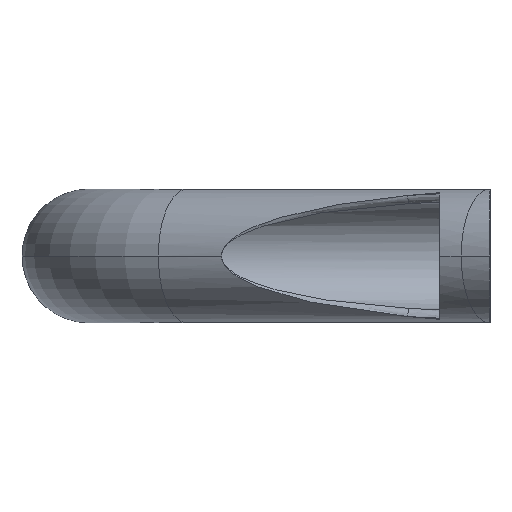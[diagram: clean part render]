
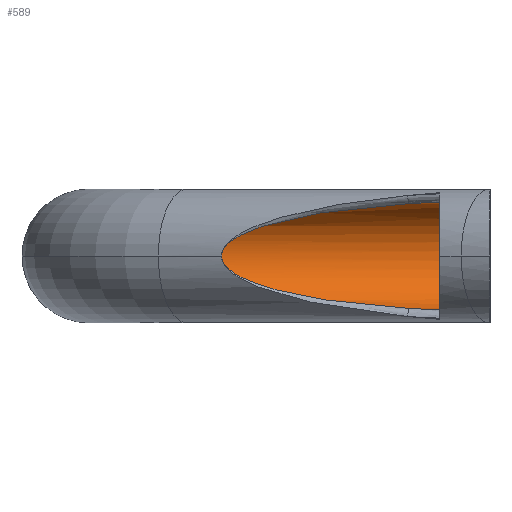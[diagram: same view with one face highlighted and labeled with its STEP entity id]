
A CAD part, left-side view. The second image highlights one B-rep face of the part: STEP entity #589.
In plain terms, the highlighted cylindrical face has radius 6.5 mm (diameter 13 mm), a partial arc.
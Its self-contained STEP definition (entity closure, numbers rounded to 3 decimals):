
#9 = DIRECTION ( 'NONE',  ( 0., 0., -1. ) ) ;
#28 = CARTESIAN_POINT ( 'NONE',  ( -68.501, 32.119, -0.128 ) ) ;
#83 = CARTESIAN_POINT ( 'NONE',  ( -70.348, 23.595, -4.551 ) ) ;
#130 = CARTESIAN_POINT ( 'NONE',  ( -69.307, 28.434, 3.144 ) ) ;
#132 = CARTESIAN_POINT ( 'NONE',  ( -73.328, 9.612, -6.281 ) ) ;
#134 = CARTESIAN_POINT ( 'NONE',  ( -75., 73., 0. ) ) ;
#143 = DIRECTION ( 'NONE',  ( 0., 0., -1. ) ) ;
#148 = EDGE_CURVE ( 'NONE', #1024, #373, #291, .T. ) ;
#186 = CARTESIAN_POINT ( 'NONE',  ( -68.568, 31.796, -0.962 ) ) ;
#207 = CARTESIAN_POINT ( 'NONE',  ( -68.518, 32.026, -0.503 ) ) ;
#255 = CARTESIAN_POINT ( 'NONE',  ( -68.724, 31.091, 1.697 ) ) ;
#268 = CARTESIAN_POINT ( 'NONE',  ( -74.107, 6., 6.438 ) ) ;
#291 = B_SPLINE_CURVE_WITH_KNOTS ( 'NONE', 3,
 ( #1592, #829, #28, #702, #1060, #207, #486, #186, #847, #1518, #723, #1219, #732, #458, #1244, #1633, #1380, #709, #743, #83, #1235, #603, #834, #865, #1345, #583 ),
 .UNSPECIFIED., .F., .F.,
 ( 4, 2, 2, 2, 2, 2, 2, 2, 2, 2, 2, 2, 4 ),
 ( 0., 0., 0., 0.001, 0.001, 0.002, 0.003, 0.005, 0.006, 0.009, 0.012, 0.018, 0.025 ),
 .UNSPECIFIED. ) ;
#331 = CARTESIAN_POINT ( 'NONE',  ( -74.107, 6., 6.438 ) ) ;
#332 =( BOUNDED_CURVE ( )  B_SPLINE_CURVE ( 3, ( #268, #507, #391, #1022 ),
 .UNSPECIFIED., .F., .T. ) 
 B_SPLINE_CURVE_WITH_KNOTS ( ( 4, 4 ),
 ( 1.709, 1.831 ),
 .UNSPECIFIED. ) 
 CURVE ( )  GEOMETRIC_REPRESENTATION_ITEM ( )  RATIONAL_B_SPLINE_CURVE ( ( 1., 0.999, 0.999, 1. ) ) 
 REPRESENTATION_ITEM ( '' )  );
#351 = VERTEX_POINT ( 'NONE', #1267 ) ;
#373 = VERTEX_POINT ( 'NONE', #132 ) ;
#374 = CARTESIAN_POINT ( 'NONE',  ( -69.104, 29.362, 2.746 ) ) ;
#385 = CARTESIAN_POINT ( 'NONE',  ( -70.348, 23.595, 4.551 ) ) ;
#391 = CARTESIAN_POINT ( 'NONE',  ( -73.584, 8.424, 6.35 ) ) ;
#394 = CARTESIAN_POINT ( 'NONE',  ( -69.929, 25.555, 4.078 ) ) ;
#458 = CARTESIAN_POINT ( 'NONE',  ( -69.004, 29.818, -2.525 ) ) ;
#472 = ORIENTED_EDGE ( 'NONE', *, *, #576, .T. ) ;
#486 = CARTESIAN_POINT ( 'NONE',  ( -68.529, 31.976, -0.622 ) ) ;
#494 = CARTESIAN_POINT ( 'NONE',  ( -68.501, 32.119, 0.128 ) ) ;
#507 = CARTESIAN_POINT ( 'NONE',  ( -73.844, 7.218, 6.402 ) ) ;
#511 = CARTESIAN_POINT ( 'NONE',  ( -68.568, 31.796, 0.962 ) ) ;
#534 = CYLINDRICAL_SURFACE ( 'NONE', #1245, 6.5 ) ;
#542 = EDGE_CURVE ( 'NONE', #1003, #1214, #332, .T. ) ;
#545 = CIRCLE ( 'NONE', #687, 6.5 ) ;
#576 = EDGE_CURVE ( 'NONE', #351, #1003, #545, .T. ) ;
#583 = CARTESIAN_POINT ( 'NONE',  ( -73.328, 9.612, -6.281 ) ) ;
#589 = ADVANCED_FACE ( 'NONE', ( #789 ), #534, .F. ) ;
#603 = CARTESIAN_POINT ( 'NONE',  ( -71.192, 19.632, -5.297 ) ) ;
#620 = CARTESIAN_POINT ( 'NONE',  ( -71.192, 19.633, 5.297 ) ) ;
#640 = ORIENTED_EDGE ( 'NONE', *, *, #148, .T. ) ;
#646 = CARTESIAN_POINT ( 'NONE',  ( -69.72, 26.528, 3.81 ) ) ;
#661 = DIRECTION ( 'NONE',  ( 0., -1., 0. ) ) ;
#663 = ORIENTED_EDGE ( 'NONE', *, *, #542, .T. ) ;
#687 = AXIS2_PLACEMENT_3D ( 'NONE', #1550, #915, #143 ) ;
#702 = CARTESIAN_POINT ( 'NONE',  ( -68.505, 32.096, -0.255 ) ) ;
#709 = CARTESIAN_POINT ( 'NONE',  ( -69.72, 26.528, -3.81 ) ) ;
#723 = CARTESIAN_POINT ( 'NONE',  ( -68.724, 31.091, -1.697 ) ) ;
#729 = CARTESIAN_POINT ( 'NONE',  ( -74.107, 6., -6.438 ) ) ;
#732 = CARTESIAN_POINT ( 'NONE',  ( -68.86, 30.471, -2.139 ) ) ;
#743 = CARTESIAN_POINT ( 'NONE',  ( -69.929, 25.555, -4.078 ) ) ;
#752 = CARTESIAN_POINT ( 'NONE',  ( -68.505, 32.096, 0.255 ) ) ;
#762 = CARTESIAN_POINT ( 'NONE',  ( -68.813, 30.684, 2.001 ) ) ;
#769 = B_SPLINE_CURVE_WITH_KNOTS ( 'NONE', 3,
 ( #1543, #1669, #1006, #1537, #620, #1284, #385, #394, #646, #1157, #130, #374, #1412, #1134, #762, #255, #785, #1264, #511, #1164, #1293, #1035, #752, #494, #1554, #1025 ),
 .UNSPECIFIED., .F., .F.,
 ( 4, 2, 2, 2, 2, 2, 2, 2, 2, 2, 2, 2, 4 ),
 ( 0., 0.006, 0.012, 0.015, 0.019, 0.02, 0.022, 0.022, 0.023, 0.024, 0.024, 0.025, 0.025 ),
 .UNSPECIFIED. ) ;
#783 = EDGE_LOOP ( 'NONE', ( #640, #1457, #472, #663, #1531 ) ) ;
#785 = CARTESIAN_POINT ( 'NONE',  ( -68.68, 31.285, 1.533 ) ) ;
#789 = FACE_OUTER_BOUND ( 'NONE', #783, .T. ) ;
#791 = EDGE_CURVE ( 'NONE', #1214, #1024, #769, .T. ) ;
#829 = CARTESIAN_POINT ( 'NONE',  ( -68.5, 32.124, -0.064 ) ) ;
#834 = CARTESIAN_POINT ( 'NONE',  ( -71.615, 17.634, -5.57 ) ) ;
#847 = CARTESIAN_POINT ( 'NONE',  ( -68.603, 31.638, -1.165 ) ) ;
#865 = CARTESIAN_POINT ( 'NONE',  ( -72.467, 13.63, -6.005 ) ) ;
#915 = DIRECTION ( 'NONE',  ( 0., -1., 0. ) ) ;
#967 = CARTESIAN_POINT ( 'NONE',  ( -68.5, 32.13, 0. ) ) ;
#980 = EDGE_CURVE ( 'NONE', #373, #351, #1372, .T. ) ;
#1003 = VERTEX_POINT ( 'NONE', #331 ) ;
#1006 = CARTESIAN_POINT ( 'NONE',  ( -72.467, 13.63, 6.005 ) ) ;
#1022 = CARTESIAN_POINT ( 'NONE',  ( -73.328, 9.612, 6.281 ) ) ;
#1024 = VERTEX_POINT ( 'NONE', #967 ) ;
#1025 = CARTESIAN_POINT ( 'NONE',  ( -68.5, 32.13, 0. ) ) ;
#1035 = CARTESIAN_POINT ( 'NONE',  ( -68.507, 32.081, 0.318 ) ) ;
#1060 = CARTESIAN_POINT ( 'NONE',  ( -68.507, 32.081, -0.318 ) ) ;
#1094 = CARTESIAN_POINT ( 'NONE',  ( -73.584, 8.424, -6.35 ) ) ;
#1102 = CARTESIAN_POINT ( 'NONE',  ( -73.844, 7.218, -6.402 ) ) ;
#1105 = CARTESIAN_POINT ( 'NONE',  ( -73.328, 9.612, 6.281 ) ) ;
#1134 = CARTESIAN_POINT ( 'NONE',  ( -68.86, 30.472, 2.139 ) ) ;
#1157 = CARTESIAN_POINT ( 'NONE',  ( -69.409, 27.961, 3.322 ) ) ;
#1164 = CARTESIAN_POINT ( 'NONE',  ( -68.529, 31.976, 0.622 ) ) ;
#1214 = VERTEX_POINT ( 'NONE', #1105 ) ;
#1219 = CARTESIAN_POINT ( 'NONE',  ( -68.814, 30.684, -2.001 ) ) ;
#1235 = CARTESIAN_POINT ( 'NONE',  ( -70.559, 22.607, -4.754 ) ) ;
#1244 = CARTESIAN_POINT ( 'NONE',  ( -69.104, 29.362, -2.746 ) ) ;
#1245 = AXIS2_PLACEMENT_3D ( 'NONE', #134, #661, #9 ) ;
#1264 = CARTESIAN_POINT ( 'NONE',  ( -68.602, 31.638, 1.165 ) ) ;
#1267 = CARTESIAN_POINT ( 'NONE',  ( -74.107, 6., -6.438 ) ) ;
#1284 = CARTESIAN_POINT ( 'NONE',  ( -70.559, 22.607, 4.754 ) ) ;
#1293 = CARTESIAN_POINT ( 'NONE',  ( -68.518, 32.026, 0.503 ) ) ;
#1345 = CARTESIAN_POINT ( 'NONE',  ( -72.895, 11.622, -6.166 ) ) ;
#1372 =( BOUNDED_CURVE ( )  B_SPLINE_CURVE ( 3, ( #1622, #1094, #1102, #729 ),
 .UNSPECIFIED., .F., .T. ) 
 B_SPLINE_CURVE_WITH_KNOTS ( ( 4, 4 ),
 ( 4.452, 4.575 ),
 .UNSPECIFIED. ) 
 CURVE ( )  GEOMETRIC_REPRESENTATION_ITEM ( )  RATIONAL_B_SPLINE_CURVE ( ( 1., 0.999, 0.999, 1. ) ) 
 REPRESENTATION_ITEM ( '' )  );
#1380 = CARTESIAN_POINT ( 'NONE',  ( -69.409, 27.961, -3.322 ) ) ;
#1412 = CARTESIAN_POINT ( 'NONE',  ( -69.004, 29.818, 2.525 ) ) ;
#1457 = ORIENTED_EDGE ( 'NONE', *, *, #980, .T. ) ;
#1518 = CARTESIAN_POINT ( 'NONE',  ( -68.681, 31.285, -1.533 ) ) ;
#1531 = ORIENTED_EDGE ( 'NONE', *, *, #791, .T. ) ;
#1537 = CARTESIAN_POINT ( 'NONE',  ( -71.615, 17.634, 5.57 ) ) ;
#1543 = CARTESIAN_POINT ( 'NONE',  ( -73.328, 9.612, 6.281 ) ) ;
#1550 = CARTESIAN_POINT ( 'NONE',  ( -75., 6., 0. ) ) ;
#1554 = CARTESIAN_POINT ( 'NONE',  ( -68.5, 32.124, 0.064 ) ) ;
#1592 = CARTESIAN_POINT ( 'NONE',  ( -68.5, 32.13, 0. ) ) ;
#1622 = CARTESIAN_POINT ( 'NONE',  ( -73.328, 9.612, -6.281 ) ) ;
#1633 = CARTESIAN_POINT ( 'NONE',  ( -69.307, 28.434, -3.144 ) ) ;
#1669 = CARTESIAN_POINT ( 'NONE',  ( -72.895, 11.622, 6.166 ) ) ;
